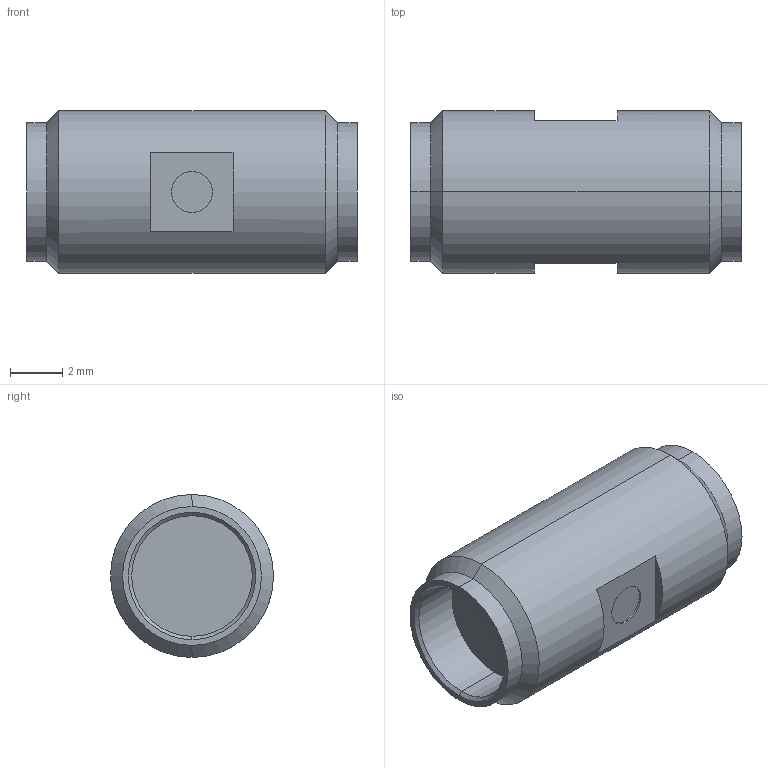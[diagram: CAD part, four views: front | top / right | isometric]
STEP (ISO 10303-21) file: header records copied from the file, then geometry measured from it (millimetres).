
FILE_DESCRIPTION (( 'STEP AP214' ), '1' );
FILE_NAME ('SF2992-6001.STEP', '2016-01-12T15:26:41', ( '' ), ( '' ), 'SwSTEP 2.0', 'SolidWorks 2015', '' );
FILE_SCHEMA (( 'AUTOMOTIVE_DESIGN' ));
Length unit declared in the file: inch
Products named in the file (1): SF2992-6001
Bounding box: 12.7 x 6.26 x 6.26 mm (x, y, z)
Volume: 302.9 mm3; surface area: 352.8 mm2
Topology: 1 solids, 1 shells, 34 faces, 66 edges, 40 vertices
Faces by surface type: cylinder 14, plane 12, cone 8
Entity records: 1326 total; most frequent: DIRECTION 172, CARTESIAN_POINT 141, ORIENTED_EDGE 132, AXIS2_PLACEMENT_3D 71, EDGE_CURVE 66, VERTEX_POINT 40, EDGE_LOOP 40, CIRCLE 36
